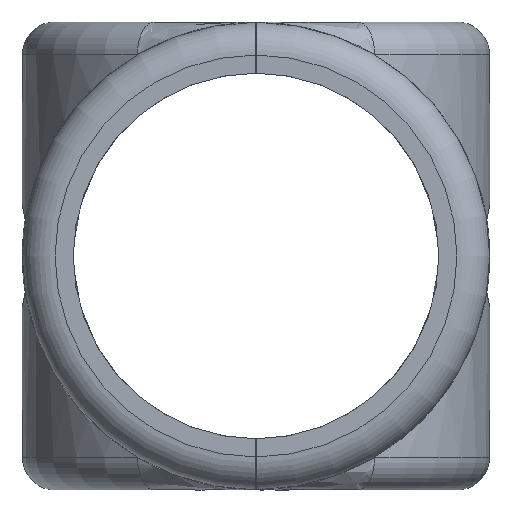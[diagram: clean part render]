
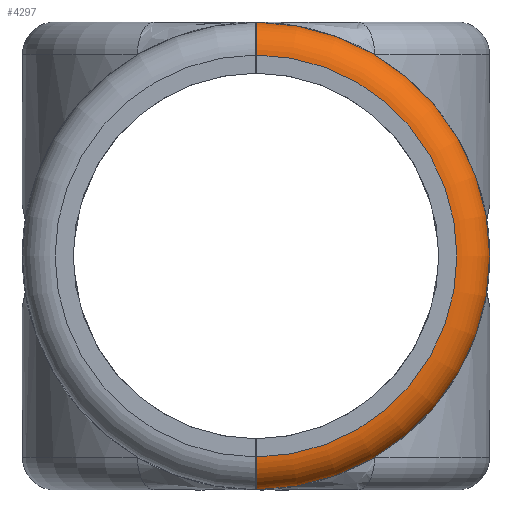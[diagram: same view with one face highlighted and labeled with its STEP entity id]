
A CAD part, left-side view. The second image highlights one B-rep face of the part: STEP entity #4297.
In plain terms, the highlighted toroidal (fillet/blend) face has major radius 27.65 mm and minor radius 4.5 mm.
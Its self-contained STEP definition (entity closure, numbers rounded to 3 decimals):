
#94 = CARTESIAN_POINT ( 'NONE',  ( -75.15, -0.1, -60.095 ) ) ;
#258 = DIRECTION ( 'NONE',  ( 1., 0., 0. ) ) ;
#389 = CARTESIAN_POINT ( 'NONE',  ( -74.694, -0.1, -2.505 ) ) ;
#412 = CARTESIAN_POINT ( 'NONE',  ( -70.65, 0., -32.15 ) ) ;
#645 = CIRCLE ( 'NONE', #6031, 32.15 ) ;
#674 = CARTESIAN_POINT ( 'NONE',  ( -71.242, -0.1, -64.27 ) ) ;
#972 = CARTESIAN_POINT ( 'NONE',  ( -73.397, -0.1, -0.923 ) ) ;
#1014 = CARTESIAN_POINT ( 'NONE',  ( -73.623, -0.1, -1.11 ) ) ;
#1074 = DIRECTION ( 'NONE',  ( 0., 0., -1. ) ) ;
#1092 = CARTESIAN_POINT ( 'NONE',  ( -70.65, -0.1, 0. ) ) ;
#1262 = CARTESIAN_POINT ( 'NONE',  ( -74.92, -0.1, -61.249 ) ) ;
#1431 = DIRECTION ( 'NONE',  ( 0., 0., -1. ) ) ;
#1437 = CARTESIAN_POINT ( 'NONE',  ( -75.15, -0.1, -4.5 ) ) ;
#1438 = VERTEX_POINT ( 'NONE', #2648 ) ;
#1562 = CARTESIAN_POINT ( 'NONE',  ( -70.944, -0.1, 0. ) ) ;
#1759 = ORIENTED_EDGE ( 'NONE', *, *, #7115, .F. ) ;
#1843 = CARTESIAN_POINT ( 'NONE',  ( -75.15, -0.1, -59.8 ) ) ;
#2146 = CARTESIAN_POINT ( 'NONE',  ( -75.15, -0.1, -4.203 ) ) ;
#2354 = CARTESIAN_POINT ( 'NONE',  ( -73.623, -0.1, -63.191 ) ) ;
#2361 = CARTESIAN_POINT ( 'NONE',  ( -70.65, 0., -32.15 ) ) ;
#2557 = B_SPLINE_CURVE_WITH_KNOTS ( 'NONE', 3,
 ( #5502, #5347, #674, #5467, #7139, #6628, #5976, #3623, #2354, #4875, #4755, #3667, #3072, #1262, #3111, #5430, #94, #1843 ),
 .UNSPECIFIED., .F., .F.,
 ( 4, 2, 2, 2, 2, 2, 2, 2, 4 ),
 ( 0.024, 0.025, 0.026, 0.027, 0.027, 0.028, 0.029, 0.03, 0.031 ),
 .UNSPECIFIED. ) ;
#2648 = CARTESIAN_POINT ( 'NONE',  ( -70.65, -0.1, -64.3 ) ) ;
#2776 = VERTEX_POINT ( 'NONE', #3508 ) ;
#2778 = CARTESIAN_POINT ( 'NONE',  ( -75.007, -0.1, -3.336 ) ) ;
#2854 = CARTESIAN_POINT ( 'NONE',  ( -71.816, -0.1, -0.144 ) ) ;
#3022 = CARTESIAN_POINT ( 'NONE',  ( -75.15, 0., -32.15 ) ) ;
#3072 = CARTESIAN_POINT ( 'NONE',  ( -74.696, -0.1, -61.792 ) ) ;
#3111 = CARTESIAN_POINT ( 'NONE',  ( -75.007, -0.1, -60.963 ) ) ;
#3187 = VERTEX_POINT ( 'NONE', #5325 ) ;
#3266 = AXIS2_PLACEMENT_3D ( 'NONE', #2361, #4761, #1074 ) ;
#3298 = EDGE_CURVE ( 'NONE', #2776, #1438, #645, .T. ) ;
#3329 = CARTESIAN_POINT ( 'NONE',  ( -72.101, -0.1, -0.23 ) ) ;
#3371 = B_SPLINE_CURVE_WITH_KNOTS ( 'NONE', 3,
 ( #5140, #2146, #4546, #2778, #6384, #389, #4082, #6920, #4585, #1014, #972, #3929, #3483, #3329, #2854, #5729, #1562, #1092 ),
 .UNSPECIFIED., .F., .F.,
 ( 4, 2, 2, 2, 2, 2, 2, 2, 4 ),
 ( 0.005, 0.005, 0.006, 0.007, 0.008, 0.009, 0.01, 0.011, 0.012 ),
 .UNSPECIFIED. ) ;
#3483 = CARTESIAN_POINT ( 'NONE',  ( -72.642, -0.1, -0.455 ) ) ;
#3508 = CARTESIAN_POINT ( 'NONE',  ( -70.65, -0.1, 0. ) ) ;
#3570 = DIRECTION ( 'NONE',  ( 0., 0., -1. ) ) ;
#3623 = CARTESIAN_POINT ( 'NONE',  ( -73.393, -0.1, -63.38 ) ) ;
#3667 = CARTESIAN_POINT ( 'NONE',  ( -74.558, -0.1, -62.051 ) ) ;
#3835 = ORIENTED_EDGE ( 'NONE', *, *, #3298, .F. ) ;
#3929 = CARTESIAN_POINT ( 'NONE',  ( -72.904, -0.1, -0.594 ) ) ;
#4082 = CARTESIAN_POINT ( 'NONE',  ( -74.556, -0.1, -2.246 ) ) ;
#4165 = DIRECTION ( 'NONE',  ( -1., 0., 0. ) ) ;
#4274 = EDGE_LOOP ( 'NONE', ( #4696, #3835, #1759, #4709 ) ) ;
#4297 = ADVANCED_FACE ( 'NONE', ( #6479 ), #5774, .T. ) ;
#4394 = CIRCLE ( 'NONE', #5400, 27.65 ) ;
#4432 = EDGE_CURVE ( 'NONE', #3187, #7275, #4394, .T. ) ;
#4546 = CARTESIAN_POINT ( 'NONE',  ( -75.121, -0.1, -3.911 ) ) ;
#4585 = CARTESIAN_POINT ( 'NONE',  ( -74.039, -0.1, -1.525 ) ) ;
#4696 = ORIENTED_EDGE ( 'NONE', *, *, #4928, .F. ) ;
#4709 = ORIENTED_EDGE ( 'NONE', *, *, #4432, .F. ) ;
#4755 = CARTESIAN_POINT ( 'NONE',  ( -74.23, -0.1, -62.542 ) ) ;
#4761 = DIRECTION ( 'NONE',  ( 1., 0., 0. ) ) ;
#4875 = CARTESIAN_POINT ( 'NONE',  ( -74.041, -0.1, -62.772 ) ) ;
#4928 = EDGE_CURVE ( 'NONE', #1438, #3187, #2557, .T. ) ;
#5140 = CARTESIAN_POINT ( 'NONE',  ( -75.15, -0.1, -4.5 ) ) ;
#5325 = CARTESIAN_POINT ( 'NONE',  ( -75.15, -0.1, -59.8 ) ) ;
#5347 = CARTESIAN_POINT ( 'NONE',  ( -70.945, -0.1, -64.3 ) ) ;
#5400 = AXIS2_PLACEMENT_3D ( 'NONE', #3022, #4165, #3570 ) ;
#5430 = CARTESIAN_POINT ( 'NONE',  ( -75.121, -0.1, -60.387 ) ) ;
#5467 = CARTESIAN_POINT ( 'NONE',  ( -71.816, -0.1, -64.156 ) ) ;
#5502 = CARTESIAN_POINT ( 'NONE',  ( -70.65, -0.1, -64.3 ) ) ;
#5729 = CARTESIAN_POINT ( 'NONE',  ( -71.236, -0.1, -0.029 ) ) ;
#5774 = TOROIDAL_SURFACE ( 'NONE', #3266, 27.65, 4.5 ) ;
#5976 = CARTESIAN_POINT ( 'NONE',  ( -72.905, -0.1, -63.705 ) ) ;
#6031 = AXIS2_PLACEMENT_3D ( 'NONE', #412, #258, #1431 ) ;
#6384 = CARTESIAN_POINT ( 'NONE',  ( -74.92, -0.1, -3.049 ) ) ;
#6479 = FACE_OUTER_BOUND ( 'NONE', #4274, .T. ) ;
#6628 = CARTESIAN_POINT ( 'NONE',  ( -72.646, -0.1, -63.844 ) ) ;
#6920 = CARTESIAN_POINT ( 'NONE',  ( -74.229, -0.1, -1.756 ) ) ;
#7115 = EDGE_CURVE ( 'NONE', #7275, #2776, #3371, .T. ) ;
#7139 = CARTESIAN_POINT ( 'NONE',  ( -72.098, -0.1, -64.071 ) ) ;
#7275 = VERTEX_POINT ( 'NONE', #1437 ) ;
